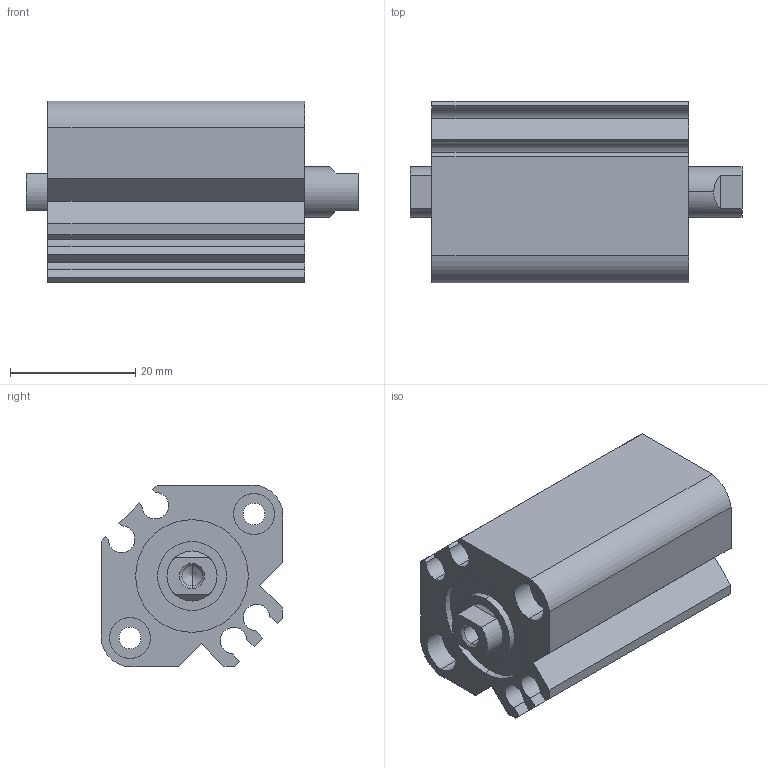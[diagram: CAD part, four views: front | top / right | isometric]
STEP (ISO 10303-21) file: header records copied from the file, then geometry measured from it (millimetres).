
FILE_DESCRIPTION (( 'STEP AP203' ), '1' );
FILE_NAME ('CCMB16-5F-P.STEP', '2020-08-05T11:02:46', ( '' ), ( '' ), 'SwSTEP 2.0', 'SolidWorks 2019', '' );
FILE_SCHEMA (( 'CONFIG_CONTROL_DESIGN' ));
Length unit declared in the file: millimetre
Products named in the file (1): CCMB16-5F-P
Bounding box: 53 x 29 x 29 mm (x, y, z)
Volume: 25437 mm3; surface area: 12628.9 mm2
Topology: 2 solids, 2 shells, 114 faces, 276 edges, 178 vertices
Faces by surface type: cylinder 52, plane 50, cone 12
Entity records: 3415 total; most frequent: DIRECTION 606, CARTESIAN_POINT 589, ORIENTED_EDGE 544, EDGE_CURVE 272, AXIS2_PLACEMENT_3D 227, VERTEX_POINT 178, LINE 152, VECTOR 152
